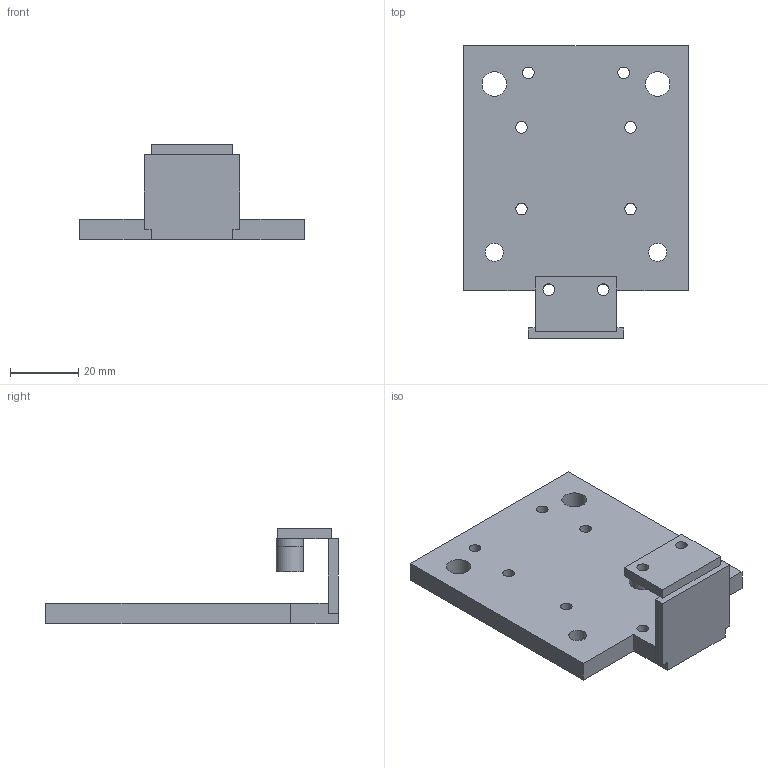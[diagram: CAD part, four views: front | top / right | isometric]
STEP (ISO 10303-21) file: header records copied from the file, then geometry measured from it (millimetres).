
FILE_DESCRIPTION(('Open CASCADE Model'),'2;1');
FILE_NAME('Open CASCADE Shape Model','2026-10-21T12:04:46',('Author'),( 'Open CASCADE'),'Open CASCADE STEP processor 7.9','Open CASCADE 7.9' ,'Unknown');
FILE_SCHEMA(('AUTOMOTIVE_DESIGN { 1 0 10303 214 1 1 1 1 }'));
Length unit declared in the file: millimetre
Products named in the file (1): Open CASCADE STEP translator 7.9 12
Bounding box: 66 x 86 x 28 mm (x, y, z)
Volume: 32558.5 mm3; surface area: 15229.4 mm2
Topology: 1 solids, 1 shells, 44 faces, 117 edges, 75 vertices
Faces by surface type: plane 28, cylinder 16
Full cylindrical faces by diameter (mm): 3.4 x10, 5.3 x2, 7.2 x2, 8 x2
Entity records: 3037 total; most frequent: CARTESIAN_POINT 639, DIRECTION 450, LINE 277, VECTOR 277, ORIENTED_EDGE 234, PCURVE 234, DEFINITIONAL_REPRESENTATION 234, EDGE_CURVE 117
